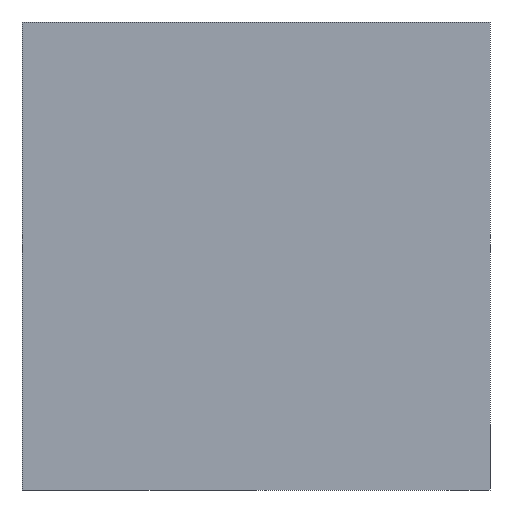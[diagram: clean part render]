
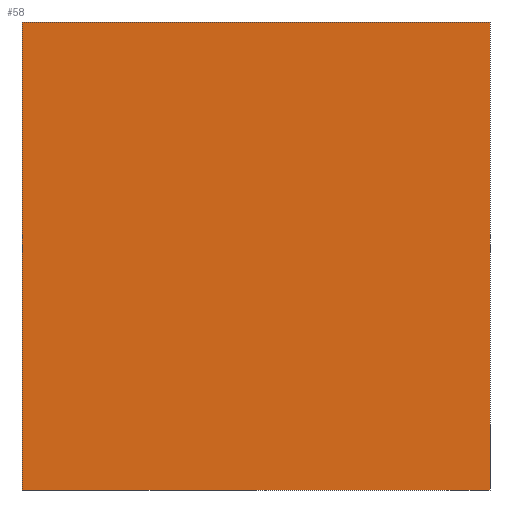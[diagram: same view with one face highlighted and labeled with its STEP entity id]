
A CAD part, left-side view. The second image highlights one B-rep face of the part: STEP entity #58.
In plain terms, the highlighted planar face has unit normal (-1, 0, 0).
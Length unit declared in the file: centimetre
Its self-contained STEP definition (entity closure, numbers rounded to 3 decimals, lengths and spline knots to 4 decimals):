
#46 = FACE_OUTER_BOUND ( 'NONE', #311, .T. ) ;
#58 = ADVANCED_FACE ( 'NONE', ( #46 ), #357, .F. ) ;
#77 = DIRECTION ( 'NONE',  ( 0., -1., 0. ) ) ;
#80 = DIRECTION ( 'NONE',  ( 0., 0., -1. ) ) ;
#82 = LINE ( 'NONE', #512, #299 ) ;
#98 = CARTESIAN_POINT ( 'NONE',  ( 0., 0., 0. ) ) ;
#101 = EDGE_CURVE ( 'NONE', #113, #376, #82, .T. ) ;
#102 = VECTOR ( 'NONE', #333, 100. ) ;
#113 = VERTEX_POINT ( 'NONE', #156 ) ;
#120 = CARTESIAN_POINT ( 'NONE',  ( 0., 1000., 1000. ) ) ;
#127 = LINE ( 'NONE', #448, #340 ) ;
#151 = VERTEX_POINT ( 'NONE', #393 ) ;
#156 = CARTESIAN_POINT ( 'NONE',  ( 0., 1000., 1000. ) ) ;
#177 = DIRECTION ( 'NONE',  ( 0., 0., -1. ) ) ;
#188 = AXIS2_PLACEMENT_3D ( 'NONE', #120, #283, #80 ) ;
#258 = CARTESIAN_POINT ( 'NONE',  ( 0., 0., 1000. ) ) ;
#260 = CARTESIAN_POINT ( 'NONE',  ( 0., 1000., 0. ) ) ;
#263 = LINE ( 'NONE', #260, #406 ) ;
#283 = DIRECTION ( 'NONE',  ( 1., 0., 0. ) ) ;
#290 = ORIENTED_EDGE ( 'NONE', *, *, #362, .T. ) ;
#293 = ORIENTED_EDGE ( 'NONE', *, *, #505, .T. ) ;
#299 = VECTOR ( 'NONE', #77, 100. ) ;
#303 = LINE ( 'NONE', #334, #102 ) ;
#311 = EDGE_LOOP ( 'NONE', ( #293, #456, #509, #290 ) ) ;
#333 = DIRECTION ( 'NONE',  ( 0., 0., -1. ) ) ;
#334 = CARTESIAN_POINT ( 'NONE',  ( 0., 0., 1000. ) ) ;
#340 = VECTOR ( 'NONE', #177, 100. ) ;
#357 = PLANE ( 'NONE',  #188 ) ;
#362 = EDGE_CURVE ( 'NONE', #113, #151, #127, .T. ) ;
#376 = VERTEX_POINT ( 'NONE', #258 ) ;
#393 = CARTESIAN_POINT ( 'NONE',  ( 0., 1000., 0. ) ) ;
#406 = VECTOR ( 'NONE', #428, 100. ) ;
#428 = DIRECTION ( 'NONE',  ( 0., -1., 0. ) ) ;
#448 = CARTESIAN_POINT ( 'NONE',  ( 0., 1000., 1000. ) ) ;
#456 = ORIENTED_EDGE ( 'NONE', *, *, #492, .F. ) ;
#465 = VERTEX_POINT ( 'NONE', #98 ) ;
#492 = EDGE_CURVE ( 'NONE', #376, #465, #303, .T. ) ;
#505 = EDGE_CURVE ( 'NONE', #151, #465, #263, .T. ) ;
#509 = ORIENTED_EDGE ( 'NONE', *, *, #101, .F. ) ;
#512 = CARTESIAN_POINT ( 'NONE',  ( 0., 1000., 1000. ) ) ;
